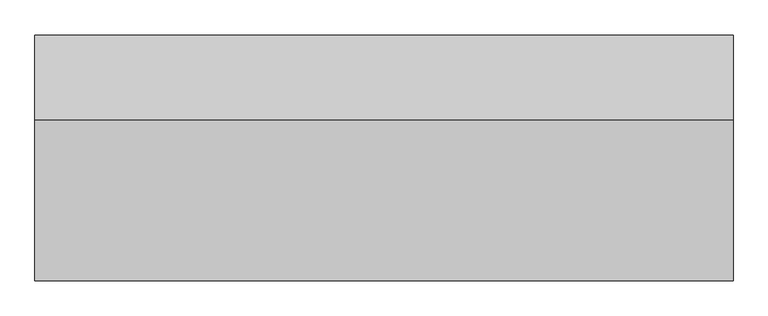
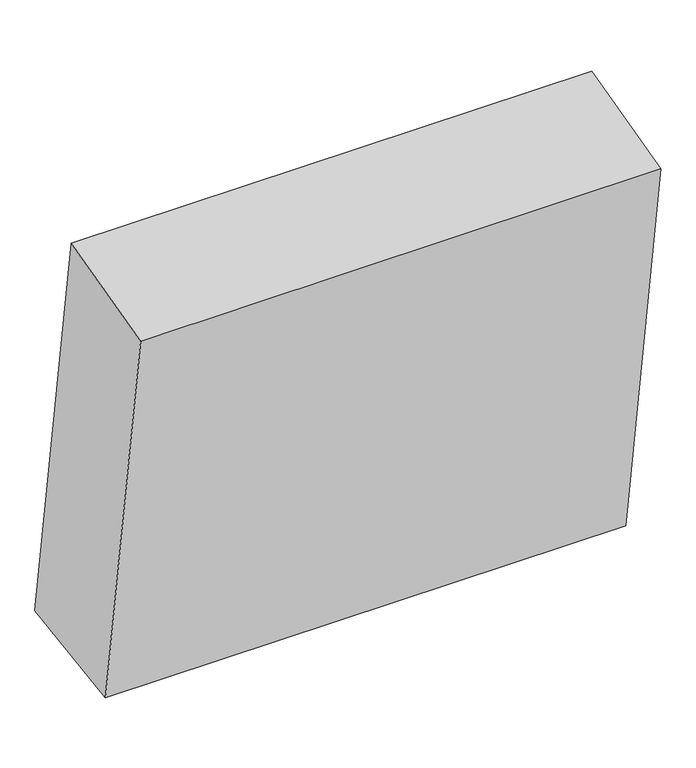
"""IFC4 building model written with IfcOpenShell, lengths in millimetres: proxy geometry, Excavation FamilySP : Excavation FamilySP."""

from ifc_helpers import new_model, si_unit, frame, origin, place, context, project, spatial, polyline, outline, extrude, source, transform, mapped, element, save


def generic_models_1521c593(model_context):
    return source(origin(), model_context, "Body", "SweptSolid", [
        extrude(outline(polyline([(-369.727485, 2501.1318773), (0.0, 0.0), (-714.1885188, -105.5742511), (-1073.02233, 2321.8641201), (-369.727485, 2501.1318773)])), frame((-1524.0, 0.0, 0.0), z_axis=(1.0, 0.0, 0.0), x_axis=(0.0, 1.0, 0.0)), (0.0, 0.0, 1.0), 3048.0),
    ])


if __name__ == "__main__":
    model = new_model("IFC4")
    model_context = context("Model", 3, world=origin())
    ifc_project = project(units=[si_unit("LENGTHUNIT", "METRE", prefix="MILLI")], contexts=[model_context])
    site = spatial("IfcSite", under=ifc_project)
    building = spatial("IfcBuilding", under=site)
    placement = place(None, origin())
    generic_models_shape = generic_models_1521c593(model_context)
    element("IfcBuildingElementProxy", 1, Name="Excavation FamilySP : Excavation FamilySP", ObjectType="Excavation FamilySP : Excavation FamilySP", at=placement, inside=building, context=model_context, shape_type="MappedRepresentation", body=[
        mapped(generic_models_shape, transform((0.0, 0.0, 0.0), x_axis=(1.0, 0.0, 0.0), y_axis=(0.0, 1.0, 0.0), z_axis=(0.0, 0.0, 1.0))),
    ])
    save(model, "model.ifc")
